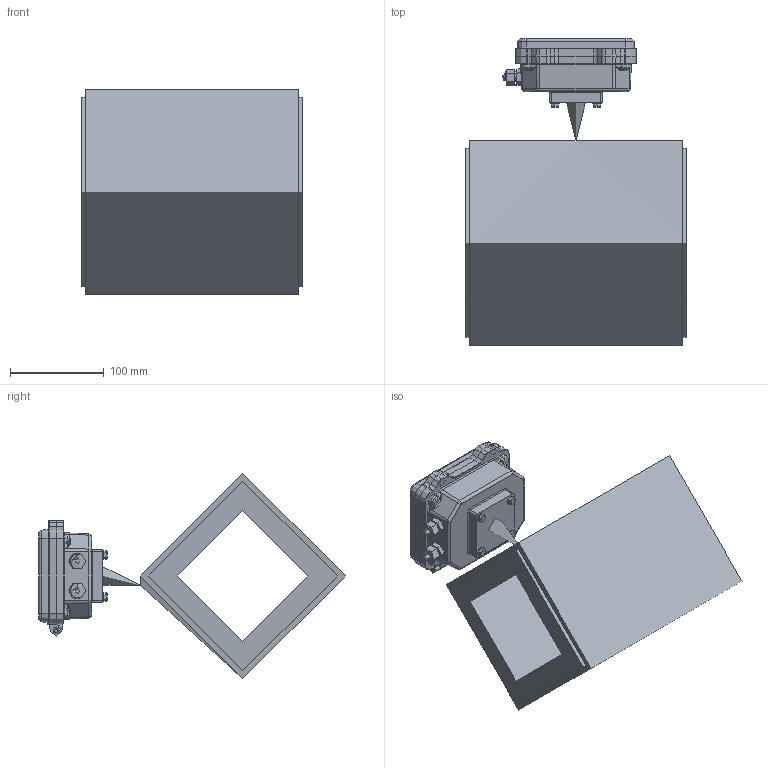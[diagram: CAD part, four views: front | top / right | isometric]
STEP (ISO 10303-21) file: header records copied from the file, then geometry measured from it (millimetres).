
FILE_DESCRIPTION(('STEP AP214'), '1');
FILE_NAME('Âçëåò ÝÐ ÏÐÎÔÈ _ DN150 Ñýíäâè÷', '', ('UNSPECIFIED'), ('UNSPECIFIED'), 'ASCON STEP Converter 1.6', 'ASCON Math Kernel', '');
FILE_SCHEMA(('AUTOMOTIVE_DESIGN { 1 0 10303 214 3 1 1}'));
Length unit declared in the file: millimetre
Bounding box: 236 x 327.5 x 219 mm (x, y, z)
Topology: 2 solids, 7 shells, 884 faces, 2143 edges, 1284 vertices
Faces by surface type: plane 310, cylinder 287, cone 132, torus 117, bspline 38
Full cylindrical faces by diameter (mm): 2 x2, 3 x4, 3.242 x12, 3.3 x2, 4 x8, 4.5 x2, 7 x2, 7.5 x2, 8 x2, 10 x4, 12 x8, 12.5 x2, 16.5 x2, 20 x2, 139 x1, 202 x2, 219 x1
Entity records: 48131 total; most frequent: CARTESIAN_POINT 15734, DIRECTION 4418, ORIENTED_EDGE 3932, EDGE_CURVE 1966, AXIS2_PLACEMENT_3D 1754, VERTEX_POINT 1262, PROPERTY_DEFINITION 1142, PROPERTY_DEFINITION_REPRESENTATION 1142
